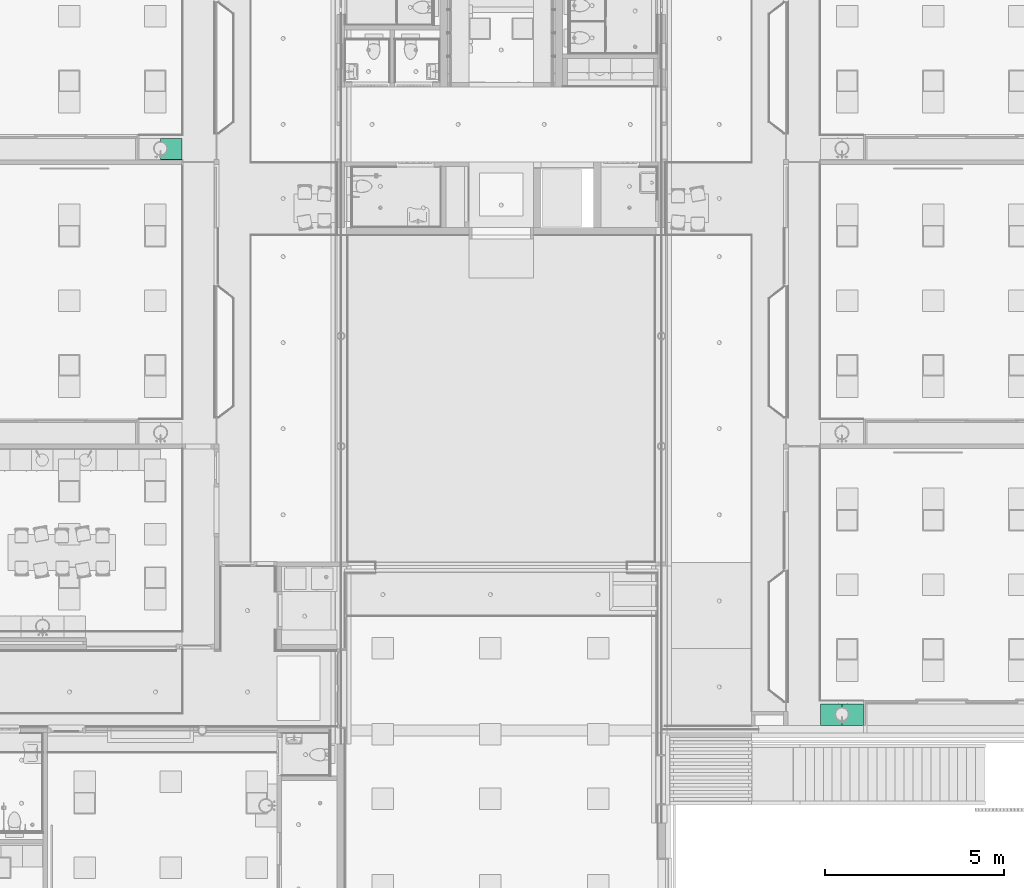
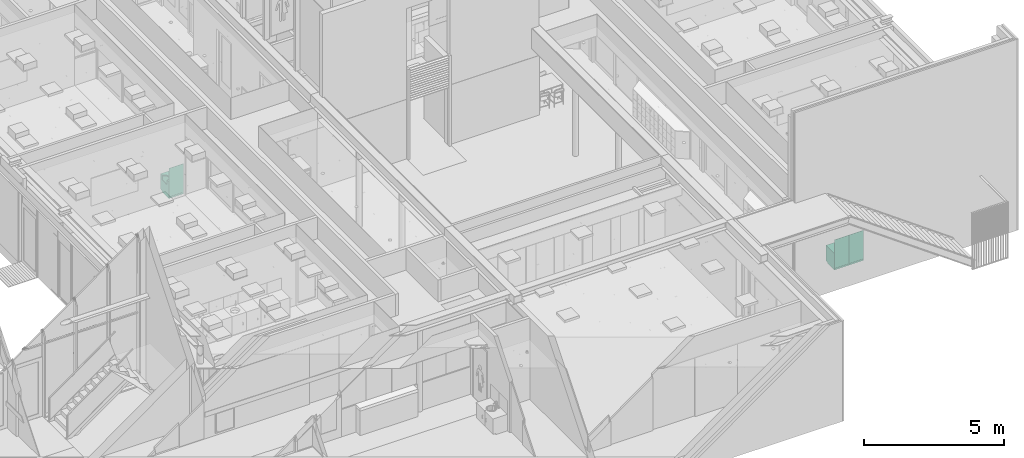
# One storey, part 305 of 347: 3 distribution elements.
"""IFC2X3 building model written with IfcOpenShell, lengths in millimetres."""

from ifc_helpers import new_model, entity, si_unit, converted_unit, derived_unit, money_unit, direction, frame, origin_with_axes, place, context, subcontext, project, spatial, faceted_brep, type_object, element, save


model = new_model("IFC2X3")

# Units and contexts
model_context = context("Model", 3, precision=0.01, world=origin_with_axes(), true_north=direction((0.0, 1.0)))
plan_context = context("Plan", 3, precision=0.01, world=origin_with_axes(), true_north=direction((0.0, 1.0)))
body_context = subcontext(model_context, "Body", "Model", "MODEL_VIEW")
ifc_project = project(units=[si_unit("LENGTHUNIT", "METRE", prefix="MILLI"), si_unit("AREAUNIT", "SQUARE_METRE"), si_unit("VOLUMEUNIT", "CUBIC_METRE"), converted_unit("PLANEANGLEUNIT", "DEGREE", entity("IfcPlaneAngleMeasure", 0.0174532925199), si_unit("PLANEANGLEUNIT", "RADIAN"), dimensions=[0, 0, 0, 0, 0, 0, 0]), money_unit("EUR"), converted_unit("TIMEUNIT", "Year", entity("IfcTimeMeasure", 31556926.0), si_unit("TIMEUNIT", "SECOND"), dimensions=[0, 0, 1, 0, 0, 0, 0]), si_unit("MASSUNIT", "GRAM", prefix="KILO"), si_unit("THERMODYNAMICTEMPERATUREUNIT", "DEGREE_CELSIUS"), si_unit("LUMINOUSINTENSITYUNIT", "LUMEN"), si_unit("ENERGYUNIT", "JOULE", prefix="MEGA"), derived_unit("THERMALCONDUCTANCEUNIT", [(si_unit("POWERUNIT", "WATT"), 1), (si_unit("LENGTHUNIT", "METRE"), -1), (si_unit("THERMODYNAMICTEMPERATUREUNIT", "KELVIN"), -1)]), derived_unit("SPECIFICHEATCAPACITYUNIT", [(si_unit("ENERGYUNIT", "JOULE"), 1), (si_unit("MASSUNIT", "GRAM", prefix="KILO"), -1), (si_unit("THERMODYNAMICTEMPERATUREUNIT", "KELVIN"), -1)]), derived_unit("MASSDENSITYUNIT", [(si_unit("MASSUNIT", "GRAM", prefix="KILO"), 1), (si_unit("VOLUMEUNIT", "CUBIC_METRE"), -1)])], contexts=[model_context, plan_context])

# Site, building, storey
site_placement = place(None, origin_with_axes())
site = spatial("IfcSite", under=ifc_project, at=site_placement, Name="Site", CompositionType="ELEMENT")
building_placement = place(site_placement, origin_with_axes())
building = spatial("IfcBuilding", under=site, at=building_placement, Name="Naam gebouw", CompositionType="ELEMENT")
storey_placement = place(building_placement, origin_with_axes())
storey = spatial("IfcBuildingStorey", under=building, at=storey_placement, Name="begane grond", CompositionType="ELEMENT", Elevation=0.0)

# Distribution elements
distribution_element_type = type_object("IfcDistributionElementType", Name="Onderkast recht 25")
distribution_element_1_placement = place(storey_placement, frame((30575.0, 28037.5, 0.0), z_axis=(0.0, 0.0, 1.0), x_axis=(-1.0, 0.0, 0.0)))
element("IfcDistributionElement", 1, at=distribution_element_1_placement, inside=storey, type_object=distribution_element_type, Name="65 Beveiliging_82 pantryblok", context=body_context, shape_type="Brep", body=[
    faceted_brep([(-127.279220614, -444.012913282, 720.0), (-166.298315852, -385.616710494, 720.0), (-180.0, -316.733692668, 720.0), (-166.298315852, -247.850674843, 720.0), (-127.279220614, -189.454472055, 720.0), (-68.8830178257, -150.435376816, 720.0), (0.0, -136.733692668, 720.0), (0.0, 0.0, 720.0), (-600.0, 0.0, 720.0), (-600.0, -600.0, 720.0), (0.0, -600.0, 720.0), (0.0, -496.733692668, 720.0), (-68.8830178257, -483.03200852, 720.0), (-127.279220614, -444.012913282, 680.0), (-166.298315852, -385.616710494, 680.0), (-180.0, -316.733692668, 680.0), (-166.298315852, -247.850674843, 680.0), (-127.279220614, -189.454472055, 680.0), (-68.8830178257, -150.435376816, 680.0), (0.0, -136.733692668, 680.0), (0.0, 0.0, 680.0), (-600.0, 0.0, 680.0), (-600.0, -600.0, 680.0), (0.0, -600.0, 680.0), (0.0, -496.733692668, 680.0), (-68.8830178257, -483.03200852, 680.0)], [[[0, 1, 2, 3, 4, 5, 6, 7, 8, 9, 10, 11, 12]], [[1, 0, 13, 14]], [[2, 1, 14, 15]], [[3, 2, 15, 16]], [[4, 3, 16, 17]], [[5, 4, 17, 18]], [[6, 5, 18, 19]], [[6, 19, 20, 7]], [[20, 21, 8, 7]], [[21, 22, 9, 8]], [[22, 23, 10, 9]], [[24, 11, 10, 23]], [[12, 11, 24, 25]], [[0, 12, 25, 13]], [[25, 24, 23, 22, 21, 20, 19, 18, 17, 16, 15, 14, 13]]]),
    faceted_brep([(-18.0, -512.0, 662.0), (-18.0, -572.0, 662.0), (-582.0, -572.0, 662.0), (-582.0, -512.0, 662.0), (-18.0, -572.0, 680.0), (-18.0, -512.0, 680.0), (-582.0, -572.0, 680.0), (-582.0, -512.0, 680.0)], [[[0, 1, 2, 3]], [[4, 1, 0, 5]], [[1, 4, 6, 2]], [[3, 2, 6, 7]], [[5, 0, 3, 7]], [[4, 5, 7, 6]]]),
    faceted_brep([(-18.0, -9.0, 68.0), (-582.0, -9.0, 68.0), (-582.0, -9.0, 662.0), (-18.0, -9.0, 662.0), (-582.0, -18.0, 68.0), (-18.0, -18.0, 68.0), (-582.0, -18.0, 662.0), (-18.0, -18.0, 662.0)], [[[0, 1, 2, 3]], [[4, 1, 0, 5]], [[1, 4, 6, 2]], [[3, 2, 6, 7]], [[5, 0, 3, 7]], [[4, 5, 7, 6]]]),
    faceted_brep([(-582.0, -60.0, 662.0), (-582.0, 0.0, 662.0), (-18.0, 0.0, 662.0), (-18.0, -60.0, 662.0), (-582.0, 0.0, 680.0), (-582.0, -60.0, 680.0), (-18.0, 0.0, 680.0), (-18.0, -60.0, 680.0)], [[[0, 1, 2, 3]], [[4, 1, 0, 5]], [[1, 4, 6, 2]], [[3, 2, 6, 7]], [[5, 0, 3, 7]], [[4, 5, 7, 6]]]),
    faceted_brep([(-14.8492424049, -201.884450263, 520.0), (-18.0, -205.990597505, 520.0), (-18.0, -205.990597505, 500.0), (-14.8492424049, -201.884450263, 500.0), (-18.0, -140.314115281, 520.0), (-10.5, -198.547159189, 520.0), (-5.43519994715, -196.449250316, 520.0), (0.0, -195.733692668, 520.0), (0.0, -136.733692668, 520.0), (-18.0, -493.153270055, 520.0), (-18.0, -227.476787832, 520.0), (-18.0, -227.476787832, 500.0), (-18.0, -140.314115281, 680.0), (-18.0, 0.0, 680.0), (-18.0, 0.0, 50.0), (-18.0, -572.0, 50.0), (-18.0, -572.0, 680.0), (-18.0, -493.153270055, 680.0), (-14.8492424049, -231.582935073, 500.0), (-10.5, -234.920226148, 500.0), (-5.43519994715, -237.01813502, 500.0), (0.0, -237.733692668, 500.0), (0.0, -195.733692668, 500.0), (-5.43519994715, -196.449250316, 500.0), (-10.5, -198.547159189, 500.0), (0.0, -496.733692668, 520.0), (0.0, -496.733692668, 680.0), (0.0, -572.0, 680.0), (0.0, -572.0, 50.0), (0.0, 0.0, 50.0), (0.0, 0.0, 680.0), (0.0, -136.733692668, 680.0), (0.0, -237.733692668, 520.0), (-5.43519994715, -237.01813502, 520.0), (-10.5, -234.920226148, 520.0), (-14.8492424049, -231.582935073, 520.0)], [[[0, 1, 2, 3]], [[4, 1, 0, 5, 6, 7, 8]], [[9, 10, 11, 2, 1, 4, 12, 13, 14, 15, 16, 17]], [[2, 11, 18, 19, 20, 21, 22, 23, 24, 3]], [[5, 0, 3, 24]], [[6, 5, 24, 23]], [[7, 6, 23, 22]], [[25, 26, 27, 28, 29, 30, 31, 8, 7, 22, 21, 32]], [[31, 12, 4, 8]], [[10, 9, 25, 32, 33, 34, 35]], [[10, 35, 18, 11]], [[12, 31, 30, 13]], [[29, 14, 13, 30]], [[14, 29, 28, 15]], [[15, 28, 27, 16]], [[26, 17, 16, 27]], [[9, 17, 26, 25]], [[35, 34, 19, 18]], [[34, 33, 20, 19]], [[33, 32, 21, 20]]]),
    faceted_brep([(-600.0, 0.0, 50.0), (-600.0, -572.0, 50.0), (-600.0, -572.0, 680.0), (-600.0, 0.0, 680.0), (-582.0, -572.0, 50.0), (-582.0, 0.0, 50.0), (-582.0, -572.0, 680.0), (-582.0, 0.0, 680.0)], [[[0, 1, 2, 3]], [[4, 1, 0, 5]], [[1, 4, 6, 2]], [[3, 2, 6, 7]], [[5, 0, 3, 7]], [[4, 5, 7, 6]]]),
    faceted_brep([(-600.0, 0.0, 720.0), (0.0, 0.0, 720.0), (0.0, -6.0, 720.0), (-600.0, -6.0, 720.0), (-600.0, 0.0, 1320.0), (0.0, 0.0, 1320.0), (0.0, -6.0, 1320.0), (-600.0, -6.0, 1320.0)], [[[0, 1, 2, 3]], [[4, 5, 1, 0]], [[1, 5, 6, 2]], [[3, 2, 6, 7]], [[0, 3, 7, 4]], [[7, 6, 5, 4]]]),
    faceted_brep([(-146.0, -590.0, 291.0), (-156.0, -590.0, 291.0), (-156.0, -590.0, 301.0), (-146.0, -590.0, 301.0), (-146.0, -600.0, 291.0), (-156.0, -600.0, 291.0), (-156.0, -603.472963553, 291.30384494), (-156.0, -606.840402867, 292.206147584), (-156.0, -610.0, 293.679491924), (-156.0, -612.855752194, 295.679111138), (-156.0, -615.320888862, 298.144247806), (-156.0, -617.320508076, 301.0), (-156.0, -618.793852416, 304.159597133), (-156.0, -619.69615506, 307.527036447), (-156.0, -620.0, 311.0), (-156.0, -620.0, 421.0), (-156.0, -619.69615506, 424.472963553), (-156.0, -618.793852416, 427.840402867), (-156.0, -617.320508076, 431.0), (-156.0, -615.320888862, 433.855752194), (-156.0, -612.855752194, 436.320888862), (-156.0, -610.0, 438.320508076), (-156.0, -606.840402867, 439.793852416), (-156.0, -603.472963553, 440.69615506), (-156.0, -600.0, 441.0), (-156.0, -590.0, 441.0), (-156.0, -590.0, 431.0), (-156.0, -600.0, 431.0), (-156.0, -601.736481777, 430.84807753), (-156.0, -603.420201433, 430.396926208), (-156.0, -605.0, 429.660254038), (-156.0, -606.427876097, 428.660444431), (-156.0, -607.660444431, 427.427876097), (-156.0, -608.660254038, 426.0), (-156.0, -609.396926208, 424.420201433), (-156.0, -609.84807753, 422.736481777), (-156.0, -610.0, 421.0), (-156.0, -610.0, 311.0), (-156.0, -609.84807753, 309.263518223), (-156.0, -609.396926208, 307.579798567), (-156.0, -608.660254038, 306.0), (-156.0, -607.660444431, 304.572123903), (-156.0, -606.427876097, 303.339555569), (-156.0, -605.0, 302.339745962), (-156.0, -603.420201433, 301.603073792), (-156.0, -601.736481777, 301.15192247), (-156.0, -600.0, 301.0), (-146.0, -600.0, 301.0), (-146.0, -601.736481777, 301.15192247), (-146.0, -603.420201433, 301.603073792), (-146.0, -605.0, 302.339745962), (-146.0, -606.427876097, 303.339555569), (-146.0, -607.660444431, 304.572123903), (-146.0, -608.660254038, 306.0), (-146.0, -609.396926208, 307.579798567), (-146.0, -609.84807753, 309.263518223), (-146.0, -610.0, 311.0), (-146.0, -610.0, 421.0), (-146.0, -609.84807753, 422.736481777), (-146.0, -609.396926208, 424.420201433), (-146.0, -608.660254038, 426.0), (-146.0, -607.660444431, 427.427876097), (-146.0, -606.427876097, 428.660444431), (-146.0, -605.0, 429.660254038), (-146.0, -603.420201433, 430.396926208), (-146.0, -601.736481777, 430.84807753), (-146.0, -600.0, 431.0), (-146.0, -590.0, 431.0), (-146.0, -590.0, 441.0), (-146.0, -600.0, 441.0), (-146.0, -603.472963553, 440.69615506), (-146.0, -606.840402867, 439.793852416), (-146.0, -610.0, 438.320508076), (-146.0, -612.855752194, 436.320888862), (-146.0, -615.320888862, 433.855752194), (-146.0, -617.320508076, 431.0), (-146.0, -618.793852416, 427.840402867), (-146.0, -619.69615506, 424.472963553), (-146.0, -620.0, 421.0), (-146.0, -620.0, 311.0), (-146.0, -619.69615506, 307.527036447), (-146.0, -618.793852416, 304.159597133), (-146.0, -617.320508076, 301.0), (-146.0, -615.320888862, 298.144247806), (-146.0, -612.855752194, 295.679111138), (-146.0, -610.0, 293.679491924), (-146.0, -606.840402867, 292.206147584), (-146.0, -603.472963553, 291.30384494)], [[[0, 1, 2, 3]], [[4, 5, 1, 0]], [[1, 5, 6, 7, 8, 9, 10, 11, 12, 13, 14, 15, 16, 17, 18, 19, 20, 21, 22, 23, 24, 25, 26, 27, 28, 29, 30, 31, 32, 33, 34, 35, 36, 37, 38, 39, 40, 41, 42, 43, 44, 45, 46, 2]], [[3, 2, 46, 47]], [[0, 3, 47, 48, 49, 50, 51, 52, 53, 54, 55, 56, 57, 58, 59, 60, 61, 62, 63, 64, 65, 66, 67, 68, 69, 70, 71, 72, 73, 74, 75, 76, 77, 78, 79, 80, 81, 82, 83, 84, 85, 86, 87, 4]], [[87, 6, 5, 4]], [[86, 7, 6, 87]], [[85, 8, 7, 86]], [[84, 9, 8, 85]], [[83, 10, 9, 84]], [[82, 11, 10, 83]], [[81, 12, 11, 82]], [[80, 13, 12, 81]], [[79, 14, 13, 80]], [[78, 15, 14, 79]], [[77, 16, 15, 78]], [[76, 17, 16, 77]], [[75, 18, 17, 76]], [[74, 19, 18, 75]], [[73, 20, 19, 74]], [[72, 21, 20, 73]], [[71, 22, 21, 72]], [[70, 23, 22, 71]], [[69, 24, 23, 70]], [[68, 25, 24, 69]], [[67, 26, 25, 68]], [[66, 27, 26, 67]], [[65, 28, 27, 66]], [[64, 29, 28, 65]], [[63, 30, 29, 64]], [[62, 31, 30, 63]], [[61, 32, 31, 62]], [[60, 33, 32, 61]], [[59, 34, 33, 60]], [[58, 35, 34, 59]], [[57, 36, 35, 58]], [[56, 37, 36, 57]], [[55, 38, 37, 56]], [[54, 39, 38, 55]], [[53, 40, 39, 54]], [[52, 41, 40, 53]], [[51, 42, 41, 52]], [[50, 43, 42, 51]], [[49, 44, 43, 50]], [[48, 45, 44, 49]], [[47, 46, 45, 48]]]),
    faceted_brep([(-1.0, -572.0, 51.0), (-1.0, -590.0, 51.0), (-599.0, -590.0, 51.0), (-599.0, -572.0, 51.0), (-1.0, -572.0, 679.0), (-1.0, -590.0, 679.0), (-599.0, -590.0, 679.0), (-599.0, -572.0, 679.0)], [[[0, 1, 2, 3]], [[4, 5, 1, 0]], [[1, 5, 6, 2]], [[3, 2, 6, 7]], [[0, 3, 7, 4]], [[7, 6, 5, 4]]]),
    faceted_brep([(-18.0, -572.0, 50.0), (-18.0, -572.0, 68.0), (-582.0, -572.0, 68.0), (-582.0, -572.0, 50.0), (-18.0, 0.0, 50.0), (-18.0, 0.0, 68.0), (-582.0, 0.0, 68.0), (-582.0, 0.0, 50.0)], [[[0, 1, 2, 3]], [[4, 5, 1, 0]], [[1, 5, 6, 2]], [[3, 2, 6, 7]], [[0, 3, 7, 4]], [[7, 6, 5, 4]]]),
    faceted_brep([(0.0, -482.0, 0.0), (0.0, -482.0, 50.0), (-600.0, -482.0, 50.0), (-600.0, -482.0, 0.0), (0.0, 0.0, 0.0), (0.0, 0.0, 50.0), (-600.0, 0.0, 50.0), (-600.0, 0.0, 0.0)], [[[0, 1, 2, 3]], [[4, 5, 1, 0]], [[1, 5, 6, 2]], [[3, 2, 6, 7]], [[0, 3, 7, 4]], [[7, 6, 5, 4]]]),
])
distribution_element_2_placement = place(storey_placement, frame((48974.9999807, 12260.0000751, 0.0), z_axis=(0.0, 0.0, 1.0), x_axis=(-1.0, 0.0, 0.0)))
element("IfcDistributionElement", 2, at=distribution_element_2_placement, inside=storey, type_object=distribution_element_type, Name="65 Beveiliging_82 pantryblok", context=body_context, shape_type="Brep", body=[
    faceted_brep([(-472.720779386, -444.012913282, 720.0), (-531.116982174, -483.03200852, 720.0), (-600.0, -496.733692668, 720.0), (-600.0, -600.0, 720.0), (0.0, -600.0, 720.0), (0.0, 0.0, 720.0), (-600.0, 0.0, 720.0), (-600.0, -136.733692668, 720.0), (-531.116982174, -150.435376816, 720.0), (-472.720779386, -189.454472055, 720.0), (-433.701684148, -247.850674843, 720.0), (-420.0, -316.733692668, 720.0), (-433.701684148, -385.616710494, 720.0), (-472.720779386, -444.012913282, 680.0), (-531.116982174, -483.03200852, 680.0), (-600.0, -496.733692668, 680.0), (-600.0, -600.0, 680.0), (0.0, -600.0, 680.0), (0.0, 0.0, 680.0), (-600.0, 0.0, 680.0), (-600.0, -136.733692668, 680.0), (-531.116982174, -150.435376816, 680.0), (-472.720779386, -189.454472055, 680.0), (-433.701684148, -247.850674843, 680.0), (-420.0, -316.733692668, 680.0), (-433.701684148, -385.616710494, 680.0)], [[[0, 1, 2, 3, 4, 5, 6, 7, 8, 9, 10, 11, 12]], [[1, 0, 13, 14]], [[2, 1, 14, 15]], [[2, 15, 16, 3]], [[16, 17, 4, 3]], [[17, 18, 5, 4]], [[18, 19, 6, 5]], [[20, 7, 6, 19]], [[8, 7, 20, 21]], [[9, 8, 21, 22]], [[10, 9, 22, 23]], [[11, 10, 23, 24]], [[12, 11, 24, 25]], [[0, 12, 25, 13]], [[21, 20, 19, 18, 17, 16, 15, 14, 13, 25, 24, 23, 22]]]),
    faceted_brep([(-18.0, -512.0, 662.0), (-18.0, -572.0, 662.0), (-582.0, -572.0, 662.0), (-582.0, -512.0, 662.0), (-18.0, -572.0, 680.0), (-18.0, -512.0, 680.0), (-582.0, -572.0, 680.0), (-582.0, -512.0, 680.0)], [[[0, 1, 2, 3]], [[4, 1, 0, 5]], [[1, 4, 6, 2]], [[3, 2, 6, 7]], [[5, 0, 3, 7]], [[4, 5, 7, 6]]]),
    faceted_brep([(-18.0, -9.0, 68.0), (-582.0, -9.0, 68.0), (-582.0, -9.0, 662.0), (-18.0, -9.0, 662.0), (-582.0, -18.0, 68.0), (-18.0, -18.0, 68.0), (-582.0, -18.0, 662.0), (-18.0, -18.0, 662.0)], [[[0, 1, 2, 3]], [[4, 1, 0, 5]], [[1, 4, 6, 2]], [[3, 2, 6, 7]], [[5, 0, 3, 7]], [[4, 5, 7, 6]]]),
    faceted_brep([(-582.0, -60.0, 662.0), (-582.0, 0.0, 662.0), (-18.0, 0.0, 662.0), (-18.0, -60.0, 662.0), (-582.0, 0.0, 680.0), (-582.0, -60.0, 680.0), (-18.0, 0.0, 680.0), (-18.0, -60.0, 680.0)], [[[0, 1, 2, 3]], [[4, 1, 0, 5]], [[1, 4, 6, 2]], [[3, 2, 6, 7]], [[5, 0, 3, 7]], [[4, 5, 7, 6]]]),
    faceted_brep([(0.0, -572.0, 50.0), (0.0, 0.0, 50.0), (0.0, 0.0, 680.0), (0.0, -572.0, 680.0), (-18.0, 0.0, 50.0), (-18.0, -572.0, 50.0), (-18.0, 0.0, 680.0), (-18.0, -572.0, 680.0)], [[[0, 1, 2, 3]], [[4, 1, 0, 5]], [[1, 4, 6, 2]], [[3, 2, 6, 7]], [[5, 0, 3, 7]], [[4, 5, 7, 6]]]),
    faceted_brep([(-594.564800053, -196.449250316, 520.0), (-600.0, -195.733692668, 520.0), (-600.0, -195.733692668, 500.0), (-594.564800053, -196.449250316, 500.0), (-600.0, -136.733692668, 520.0), (-589.5, -198.547159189, 520.0), (-585.150757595, -201.884450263, 520.0), (-582.0, -205.990597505, 520.0), (-582.0, -140.314115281, 520.0), (-600.0, -496.733692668, 520.0), (-600.0, -237.733692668, 520.0), (-600.0, -237.733692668, 500.0), (-600.0, -136.733692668, 680.0), (-600.0, 0.0, 680.0), (-600.0, 0.0, 50.0), (-600.0, -572.0, 50.0), (-600.0, -572.0, 680.0), (-600.0, -496.733692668, 680.0), (-594.564800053, -237.01813502, 500.0), (-589.5, -234.920226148, 500.0), (-585.150757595, -231.582935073, 500.0), (-582.0, -227.476787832, 500.0), (-582.0, -205.990597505, 500.0), (-585.150757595, -201.884450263, 500.0), (-589.5, -198.547159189, 500.0), (-582.0, -493.153270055, 520.0), (-582.0, -493.153270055, 680.0), (-582.0, -572.0, 680.0), (-582.0, -572.0, 50.0), (-582.0, 0.0, 50.0), (-582.0, 0.0, 680.0), (-582.0, -140.314115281, 680.0), (-582.0, -227.476787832, 520.0), (-585.150757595, -231.582935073, 520.0), (-589.5, -234.920226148, 520.0), (-594.564800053, -237.01813502, 520.0)], [[[0, 1, 2, 3]], [[4, 1, 0, 5, 6, 7, 8]], [[9, 10, 11, 2, 1, 4, 12, 13, 14, 15, 16, 17]], [[2, 11, 18, 19, 20, 21, 22, 23, 24, 3]], [[5, 0, 3, 24]], [[6, 5, 24, 23]], [[7, 6, 23, 22]], [[25, 26, 27, 28, 29, 30, 31, 8, 7, 22, 21, 32]], [[31, 12, 4, 8]], [[10, 9, 25, 32, 33, 34, 35]], [[10, 35, 18, 11]], [[12, 31, 30, 13]], [[29, 14, 13, 30]], [[28, 15, 14, 29]], [[15, 28, 27, 16]], [[26, 17, 16, 27]], [[17, 26, 25, 9]], [[35, 34, 19, 18]], [[34, 33, 20, 19]], [[33, 32, 21, 20]]]),
    faceted_brep([(-600.0, 0.0, 720.0), (0.0, 0.0, 720.0), (0.0, -6.0, 720.0), (-600.0, -6.0, 720.0), (-600.0, 0.0, 1320.0), (0.0, 0.0, 1320.0), (0.0, -6.0, 1320.0), (-600.0, -6.0, 1320.0)], [[[0, 1, 2, 3]], [[4, 5, 1, 0]], [[1, 5, 6, 2]], [[3, 2, 6, 7]], [[0, 3, 7, 4]], [[7, 6, 5, 4]]]),
    faceted_brep([(-496.0, -590.0, 291.0), (-506.0, -590.0, 291.0), (-506.0, -590.0, 301.0), (-496.0, -590.0, 301.0), (-496.0, -600.0, 291.0), (-506.0, -600.0, 291.0), (-506.0, -603.472963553, 291.30384494), (-506.0, -606.840402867, 292.206147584), (-506.0, -610.0, 293.679491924), (-506.0, -612.855752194, 295.679111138), (-506.0, -615.320888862, 298.144247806), (-506.0, -617.320508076, 301.0), (-506.0, -618.793852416, 304.159597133), (-506.0, -619.69615506, 307.527036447), (-506.0, -620.0, 311.0), (-506.0, -620.0, 421.0), (-506.0, -619.69615506, 424.472963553), (-506.0, -618.793852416, 427.840402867), (-506.0, -617.320508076, 431.0), (-506.0, -615.320888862, 433.855752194), (-506.0, -612.855752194, 436.320888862), (-506.0, -610.0, 438.320508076), (-506.0, -606.840402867, 439.793852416), (-506.0, -603.472963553, 440.69615506), (-506.0, -600.0, 441.0), (-506.0, -590.0, 441.0), (-506.0, -590.0, 431.0), (-506.0, -600.0, 431.0), (-506.0, -601.736481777, 430.84807753), (-506.0, -603.420201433, 430.396926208), (-506.0, -605.0, 429.660254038), (-506.0, -606.427876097, 428.660444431), (-506.0, -607.660444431, 427.427876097), (-506.0, -608.660254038, 426.0), (-506.0, -609.396926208, 424.420201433), (-506.0, -609.84807753, 422.736481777), (-506.0, -610.0, 421.0), (-506.0, -610.0, 311.0), (-506.0, -609.84807753, 309.263518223), (-506.0, -609.396926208, 307.579798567), (-506.0, -608.660254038, 306.0), (-506.0, -607.660444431, 304.572123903), (-506.0, -606.427876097, 303.339555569), (-506.0, -605.0, 302.339745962), (-506.0, -603.420201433, 301.603073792), (-506.0, -601.736481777, 301.15192247), (-506.0, -600.0, 301.0), (-496.0, -600.0, 301.0), (-496.0, -601.736481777, 301.15192247), (-496.0, -603.420201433, 301.603073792), (-496.0, -605.0, 302.339745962), (-496.0, -606.427876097, 303.339555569), (-496.0, -607.660444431, 304.572123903), (-496.0, -608.660254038, 306.0), (-496.0, -609.396926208, 307.579798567), (-496.0, -609.84807753, 309.263518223), (-496.0, -610.0, 311.0), (-496.0, -610.0, 421.0), (-496.0, -609.84807753, 422.736481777), (-496.0, -609.396926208, 424.420201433), (-496.0, -608.660254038, 426.0), (-496.0, -607.660444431, 427.427876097), (-496.0, -606.427876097, 428.660444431), (-496.0, -605.0, 429.660254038), (-496.0, -603.420201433, 430.396926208), (-496.0, -601.736481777, 430.84807753), (-496.0, -600.0, 431.0), (-496.0, -590.0, 431.0), (-496.0, -590.0, 441.0), (-496.0, -600.0, 441.0), (-496.0, -603.472963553, 440.69615506), (-496.0, -606.840402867, 439.793852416), (-496.0, -610.0, 438.320508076), (-496.0, -612.855752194, 436.320888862), (-496.0, -615.320888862, 433.855752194), (-496.0, -617.320508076, 431.0), (-496.0, -618.793852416, 427.840402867), (-496.0, -619.69615506, 424.472963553), (-496.0, -620.0, 421.0), (-496.0, -620.0, 311.0), (-496.0, -619.69615506, 307.527036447), (-496.0, -618.793852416, 304.159597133), (-496.0, -617.320508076, 301.0), (-496.0, -615.320888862, 298.144247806), (-496.0, -612.855752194, 295.679111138), (-496.0, -610.0, 293.679491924), (-496.0, -606.840402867, 292.206147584), (-496.0, -603.472963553, 291.30384494)], [[[0, 1, 2, 3]], [[4, 5, 1, 0]], [[1, 5, 6, 7, 8, 9, 10, 11, 12, 13, 14, 15, 16, 17, 18, 19, 20, 21, 22, 23, 24, 25, 26, 27, 28, 29, 30, 31, 32, 33, 34, 35, 36, 37, 38, 39, 40, 41, 42, 43, 44, 45, 46, 2]], [[3, 2, 46, 47]], [[0, 3, 47, 48, 49, 50, 51, 52, 53, 54, 55, 56, 57, 58, 59, 60, 61, 62, 63, 64, 65, 66, 67, 68, 69, 70, 71, 72, 73, 74, 75, 76, 77, 78, 79, 80, 81, 82, 83, 84, 85, 86, 87, 4]], [[87, 6, 5, 4]], [[86, 7, 6, 87]], [[85, 8, 7, 86]], [[84, 9, 8, 85]], [[83, 10, 9, 84]], [[82, 11, 10, 83]], [[81, 12, 11, 82]], [[80, 13, 12, 81]], [[79, 14, 13, 80]], [[78, 15, 14, 79]], [[77, 16, 15, 78]], [[76, 17, 16, 77]], [[75, 18, 17, 76]], [[74, 19, 18, 75]], [[73, 20, 19, 74]], [[72, 21, 20, 73]], [[71, 22, 21, 72]], [[70, 23, 22, 71]], [[69, 24, 23, 70]], [[68, 25, 24, 69]], [[67, 26, 25, 68]], [[66, 27, 26, 67]], [[65, 28, 27, 66]], [[64, 29, 28, 65]], [[63, 30, 29, 64]], [[62, 31, 30, 63]], [[61, 32, 31, 62]], [[60, 33, 32, 61]], [[59, 34, 33, 60]], [[58, 35, 34, 59]], [[57, 36, 35, 58]], [[56, 37, 36, 57]], [[55, 38, 37, 56]], [[54, 39, 38, 55]], [[53, 40, 39, 54]], [[52, 41, 40, 53]], [[51, 42, 41, 52]], [[50, 43, 42, 51]], [[49, 44, 43, 50]], [[48, 45, 44, 49]], [[47, 46, 45, 48]]]),
    faceted_brep([(-0.999999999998, -572.0, 51.0), (-0.999999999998, -590.0, 51.0), (-599.0, -590.0, 51.0), (-599.0, -572.0, 51.0), (-0.999999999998, -572.0, 679.0), (-0.999999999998, -590.0, 679.0), (-599.0, -590.0, 679.0), (-599.0, -572.0, 679.0)], [[[0, 1, 2, 3]], [[4, 5, 1, 0]], [[1, 5, 6, 2]], [[3, 2, 6, 7]], [[0, 3, 7, 4]], [[7, 6, 5, 4]]]),
    faceted_brep([(-18.0, -572.0, 50.0), (-18.0, -572.0, 68.0), (-582.0, -572.0, 68.0), (-582.0, -572.0, 50.0), (-18.0, 0.0, 50.0), (-18.0, 0.0, 68.0), (-582.0, 0.0, 68.0), (-582.0, 0.0, 50.0)], [[[0, 1, 2, 3]], [[4, 5, 1, 0]], [[1, 5, 6, 2]], [[3, 2, 6, 7]], [[0, 3, 7, 4]], [[7, 6, 5, 4]]]),
    faceted_brep([(0.0, -482.0, 0.0), (0.0, -482.0, 50.0), (-600.0, -482.0, 50.0), (-600.0, -482.0, 0.0), (0.0, 0.0, 0.0), (0.0, 0.0, 50.0), (-600.0, 0.0, 50.0), (-600.0, 0.0, 0.0)], [[[0, 1, 2, 3]], [[4, 5, 1, 0]], [[1, 5, 6, 2]], [[3, 2, 6, 7]], [[0, 3, 7, 4]], [[7, 6, 5, 4]]]),
])
distribution_element_3_placement = place(storey_placement, frame((49574.9999807, 12260.0000751, 0.0), z_axis=(0.0, 0.0, 1.0), x_axis=(-1.0, 0.0, 0.0)))
element("IfcDistributionElement", 3, at=distribution_element_3_placement, inside=storey, type_object=distribution_element_type, Name="65 Beveiliging_82 pantryblok", context=body_context, shape_type="Brep", body=[
    faceted_brep([(-127.279220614, -444.012913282, 720.0), (-166.298315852, -385.616710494, 720.0), (-180.0, -316.733692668, 720.0), (-166.298315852, -247.850674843, 720.0), (-127.279220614, -189.454472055, 720.0), (-68.8830178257, -150.435376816, 720.0), (0.0, -136.733692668, 720.0), (0.0, 0.0, 720.0), (-600.0, 0.0, 720.0), (-600.0, -600.0, 720.0), (0.0, -600.0, 720.0), (0.0, -496.733692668, 720.0), (-68.8830178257, -483.03200852, 720.0), (-127.279220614, -444.012913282, 680.0), (-166.298315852, -385.616710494, 680.0), (-180.0, -316.733692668, 680.0), (-166.298315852, -247.850674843, 680.0), (-127.279220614, -189.454472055, 680.0), (-68.8830178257, -150.435376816, 680.0), (0.0, -136.733692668, 680.0), (0.0, 0.0, 680.0), (-600.0, 0.0, 680.0), (-600.0, -600.0, 680.0), (0.0, -600.0, 680.0), (0.0, -496.733692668, 680.0), (-68.8830178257, -483.03200852, 680.0)], [[[0, 1, 2, 3, 4, 5, 6, 7, 8, 9, 10, 11, 12]], [[1, 0, 13, 14]], [[2, 1, 14, 15]], [[3, 2, 15, 16]], [[4, 3, 16, 17]], [[5, 4, 17, 18]], [[6, 5, 18, 19]], [[6, 19, 20, 7]], [[20, 21, 8, 7]], [[21, 22, 9, 8]], [[22, 23, 10, 9]], [[24, 11, 10, 23]], [[12, 11, 24, 25]], [[0, 12, 25, 13]], [[25, 24, 23, 22, 21, 20, 19, 18, 17, 16, 15, 14, 13]]]),
    faceted_brep([(-18.0, -512.0, 662.0), (-18.0, -572.0, 662.0), (-582.0, -572.0, 662.0), (-582.0, -512.0, 662.0), (-18.0, -572.0, 680.0), (-18.0, -512.0, 680.0), (-582.0, -572.0, 680.0), (-582.0, -512.0, 680.0)], [[[0, 1, 2, 3]], [[4, 1, 0, 5]], [[1, 4, 6, 2]], [[3, 2, 6, 7]], [[5, 0, 3, 7]], [[4, 5, 7, 6]]]),
    faceted_brep([(-18.0, -9.0, 68.0), (-582.0, -9.0, 68.0), (-582.0, -9.0, 662.0), (-18.0, -9.0, 662.0), (-582.0, -18.0, 68.0), (-18.0, -18.0, 68.0), (-582.0, -18.0, 662.0), (-18.0, -18.0, 662.0)], [[[0, 1, 2, 3]], [[4, 1, 0, 5]], [[1, 4, 6, 2]], [[3, 2, 6, 7]], [[5, 0, 3, 7]], [[4, 5, 7, 6]]]),
    faceted_brep([(-582.0, -60.0, 662.0), (-582.0, 0.0, 662.0), (-18.0, 0.0, 662.0), (-18.0, -60.0, 662.0), (-582.0, 0.0, 680.0), (-582.0, -60.0, 680.0), (-18.0, 0.0, 680.0), (-18.0, -60.0, 680.0)], [[[0, 1, 2, 3]], [[4, 1, 0, 5]], [[1, 4, 6, 2]], [[3, 2, 6, 7]], [[5, 0, 3, 7]], [[4, 5, 7, 6]]]),
    faceted_brep([(-14.8492424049, -201.884450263, 520.0), (-18.0, -205.990597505, 520.0), (-18.0, -205.990597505, 500.0), (-14.8492424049, -201.884450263, 500.0), (-18.0, -140.314115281, 520.0), (-10.5, -198.547159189, 520.0), (-5.43519994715, -196.449250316, 520.0), (0.0, -195.733692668, 520.0), (0.0, -136.733692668, 520.0), (-18.0, -493.153270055, 520.0), (-18.0, -227.476787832, 520.0), (-18.0, -227.476787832, 500.0), (-18.0, -140.314115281, 680.0), (-18.0, 0.0, 680.0), (-18.0, 0.0, 50.0), (-18.0, -572.0, 50.0), (-18.0, -572.0, 680.0), (-18.0, -493.153270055, 680.0), (-14.8492424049, -231.582935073, 500.0), (-10.5, -234.920226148, 500.0), (-5.43519994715, -237.01813502, 500.0), (0.0, -237.733692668, 500.0), (0.0, -195.733692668, 500.0), (-5.43519994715, -196.449250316, 500.0), (-10.5, -198.547159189, 500.0), (0.0, -496.733692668, 520.0), (0.0, -496.733692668, 680.0), (0.0, -572.0, 680.0), (0.0, -572.0, 50.0), (0.0, 0.0, 50.0), (0.0, 0.0, 680.0), (0.0, -136.733692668, 680.0), (0.0, -237.733692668, 520.0), (-5.43519994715, -237.01813502, 520.0), (-10.5, -234.920226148, 520.0), (-14.8492424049, -231.582935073, 520.0)], [[[0, 1, 2, 3]], [[4, 1, 0, 5, 6, 7, 8]], [[9, 10, 11, 2, 1, 4, 12, 13, 14, 15, 16, 17]], [[2, 11, 18, 19, 20, 21, 22, 23, 24, 3]], [[5, 0, 3, 24]], [[6, 5, 24, 23]], [[7, 6, 23, 22]], [[25, 26, 27, 28, 29, 30, 31, 8, 7, 22, 21, 32]], [[31, 12, 4, 8]], [[10, 9, 25, 32, 33, 34, 35]], [[10, 35, 18, 11]], [[12, 31, 30, 13]], [[29, 14, 13, 30]], [[14, 29, 28, 15]], [[15, 28, 27, 16]], [[26, 17, 16, 27]], [[9, 17, 26, 25]], [[35, 34, 19, 18]], [[34, 33, 20, 19]], [[33, 32, 21, 20]]]),
    faceted_brep([(-600.0, 0.0, 50.0), (-600.0, -572.0, 50.0), (-600.0, -572.0, 680.0), (-600.0, 0.0, 680.0), (-582.0, -572.0, 50.0), (-582.0, 0.0, 50.0), (-582.0, -572.0, 680.0), (-582.0, 0.0, 680.0)], [[[0, 1, 2, 3]], [[4, 1, 0, 5]], [[1, 4, 6, 2]], [[3, 2, 6, 7]], [[5, 0, 3, 7]], [[4, 5, 7, 6]]]),
    faceted_brep([(-600.0, 0.0, 720.0), (0.0, 0.0, 720.0), (0.0, -6.0, 720.0), (-600.0, -6.0, 720.0), (-600.0, 0.0, 1320.0), (0.0, 0.0, 1320.0), (0.0, -6.0, 1320.0), (-600.0, -6.0, 1320.0)], [[[0, 1, 2, 3]], [[4, 5, 1, 0]], [[1, 5, 6, 2]], [[3, 2, 6, 7]], [[0, 3, 7, 4]], [[7, 6, 5, 4]]]),
    faceted_brep([(-146.0, -590.0, 291.0), (-156.0, -590.0, 291.0), (-156.0, -590.0, 301.0), (-146.0, -590.0, 301.0), (-146.0, -600.0, 291.0), (-156.0, -600.0, 291.0), (-156.0, -603.472963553, 291.30384494), (-156.0, -606.840402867, 292.206147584), (-156.0, -610.0, 293.679491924), (-156.0, -612.855752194, 295.679111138), (-156.0, -615.320888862, 298.144247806), (-156.0, -617.320508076, 301.0), (-156.0, -618.793852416, 304.159597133), (-156.0, -619.69615506, 307.527036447), (-156.0, -620.0, 311.0), (-156.0, -620.0, 421.0), (-156.0, -619.69615506, 424.472963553), (-156.0, -618.793852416, 427.840402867), (-156.0, -617.320508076, 431.0), (-156.0, -615.320888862, 433.855752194), (-156.0, -612.855752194, 436.320888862), (-156.0, -610.0, 438.320508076), (-156.0, -606.840402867, 439.793852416), (-156.0, -603.472963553, 440.69615506), (-156.0, -600.0, 441.0), (-156.0, -590.0, 441.0), (-156.0, -590.0, 431.0), (-156.0, -600.0, 431.0), (-156.0, -601.736481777, 430.84807753), (-156.0, -603.420201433, 430.396926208), (-156.0, -605.0, 429.660254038), (-156.0, -606.427876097, 428.660444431), (-156.0, -607.660444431, 427.427876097), (-156.0, -608.660254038, 426.0), (-156.0, -609.396926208, 424.420201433), (-156.0, -609.84807753, 422.736481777), (-156.0, -610.0, 421.0), (-156.0, -610.0, 311.0), (-156.0, -609.84807753, 309.263518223), (-156.0, -609.396926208, 307.579798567), (-156.0, -608.660254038, 306.0), (-156.0, -607.660444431, 304.572123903), (-156.0, -606.427876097, 303.339555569), (-156.0, -605.0, 302.339745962), (-156.0, -603.420201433, 301.603073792), (-156.0, -601.736481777, 301.15192247), (-156.0, -600.0, 301.0), (-146.0, -600.0, 301.0), (-146.0, -601.736481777, 301.15192247), (-146.0, -603.420201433, 301.603073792), (-146.0, -605.0, 302.339745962), (-146.0, -606.427876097, 303.339555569), (-146.0, -607.660444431, 304.572123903), (-146.0, -608.660254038, 306.0), (-146.0, -609.396926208, 307.579798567), (-146.0, -609.84807753, 309.263518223), (-146.0, -610.0, 311.0), (-146.0, -610.0, 421.0), (-146.0, -609.84807753, 422.736481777), (-146.0, -609.396926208, 424.420201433), (-146.0, -608.660254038, 426.0), (-146.0, -607.660444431, 427.427876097), (-146.0, -606.427876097, 428.660444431), (-146.0, -605.0, 429.660254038), (-146.0, -603.420201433, 430.396926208), (-146.0, -601.736481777, 430.84807753), (-146.0, -600.0, 431.0), (-146.0, -590.0, 431.0), (-146.0, -590.0, 441.0), (-146.0, -600.0, 441.0), (-146.0, -603.472963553, 440.69615506), (-146.0, -606.840402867, 439.793852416), (-146.0, -610.0, 438.320508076), (-146.0, -612.855752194, 436.320888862), (-146.0, -615.320888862, 433.855752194), (-146.0, -617.320508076, 431.0), (-146.0, -618.793852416, 427.840402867), (-146.0, -619.69615506, 424.472963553), (-146.0, -620.0, 421.0), (-146.0, -620.0, 311.0), (-146.0, -619.69615506, 307.527036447), (-146.0, -618.793852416, 304.159597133), (-146.0, -617.320508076, 301.0), (-146.0, -615.320888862, 298.144247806), (-146.0, -612.855752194, 295.679111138), (-146.0, -610.0, 293.679491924), (-146.0, -606.840402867, 292.206147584), (-146.0, -603.472963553, 291.30384494)], [[[0, 1, 2, 3]], [[4, 5, 1, 0]], [[1, 5, 6, 7, 8, 9, 10, 11, 12, 13, 14, 15, 16, 17, 18, 19, 20, 21, 22, 23, 24, 25, 26, 27, 28, 29, 30, 31, 32, 33, 34, 35, 36, 37, 38, 39, 40, 41, 42, 43, 44, 45, 46, 2]], [[3, 2, 46, 47]], [[0, 3, 47, 48, 49, 50, 51, 52, 53, 54, 55, 56, 57, 58, 59, 60, 61, 62, 63, 64, 65, 66, 67, 68, 69, 70, 71, 72, 73, 74, 75, 76, 77, 78, 79, 80, 81, 82, 83, 84, 85, 86, 87, 4]], [[87, 6, 5, 4]], [[86, 7, 6, 87]], [[85, 8, 7, 86]], [[84, 9, 8, 85]], [[83, 10, 9, 84]], [[82, 11, 10, 83]], [[81, 12, 11, 82]], [[80, 13, 12, 81]], [[79, 14, 13, 80]], [[78, 15, 14, 79]], [[77, 16, 15, 78]], [[76, 17, 16, 77]], [[75, 18, 17, 76]], [[74, 19, 18, 75]], [[73, 20, 19, 74]], [[72, 21, 20, 73]], [[71, 22, 21, 72]], [[70, 23, 22, 71]], [[69, 24, 23, 70]], [[68, 25, 24, 69]], [[67, 26, 25, 68]], [[66, 27, 26, 67]], [[65, 28, 27, 66]], [[64, 29, 28, 65]], [[63, 30, 29, 64]], [[62, 31, 30, 63]], [[61, 32, 31, 62]], [[60, 33, 32, 61]], [[59, 34, 33, 60]], [[58, 35, 34, 59]], [[57, 36, 35, 58]], [[56, 37, 36, 57]], [[55, 38, 37, 56]], [[54, 39, 38, 55]], [[53, 40, 39, 54]], [[52, 41, 40, 53]], [[51, 42, 41, 52]], [[50, 43, 42, 51]], [[49, 44, 43, 50]], [[48, 45, 44, 49]], [[47, 46, 45, 48]]]),
    faceted_brep([(-0.999999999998, -572.0, 51.0), (-0.999999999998, -590.0, 51.0), (-599.0, -590.0, 51.0), (-599.0, -572.0, 51.0), (-0.999999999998, -572.0, 679.0), (-0.999999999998, -590.0, 679.0), (-599.0, -590.0, 679.0), (-599.0, -572.0, 679.0)], [[[0, 1, 2, 3]], [[4, 5, 1, 0]], [[1, 5, 6, 2]], [[3, 2, 6, 7]], [[0, 3, 7, 4]], [[7, 6, 5, 4]]]),
    faceted_brep([(-18.0, -572.0, 50.0), (-18.0, -572.0, 68.0), (-582.0, -572.0, 68.0), (-582.0, -572.0, 50.0), (-18.0, 0.0, 50.0), (-18.0, 0.0, 68.0), (-582.0, 0.0, 68.0), (-582.0, 0.0, 50.0)], [[[0, 1, 2, 3]], [[4, 5, 1, 0]], [[1, 5, 6, 2]], [[3, 2, 6, 7]], [[0, 3, 7, 4]], [[7, 6, 5, 4]]]),
    faceted_brep([(0.0, -482.0, 0.0), (0.0, -482.0, 50.0), (-600.0, -482.0, 50.0), (-600.0, -482.0, 0.0), (0.0, 0.0, 0.0), (0.0, 0.0, 50.0), (-600.0, 0.0, 50.0), (-600.0, 0.0, 0.0)], [[[0, 1, 2, 3]], [[4, 5, 1, 0]], [[1, 5, 6, 2]], [[3, 2, 6, 7]], [[0, 3, 7, 4]], [[7, 6, 5, 4]]]),
])

save(model, "model.ifc")
